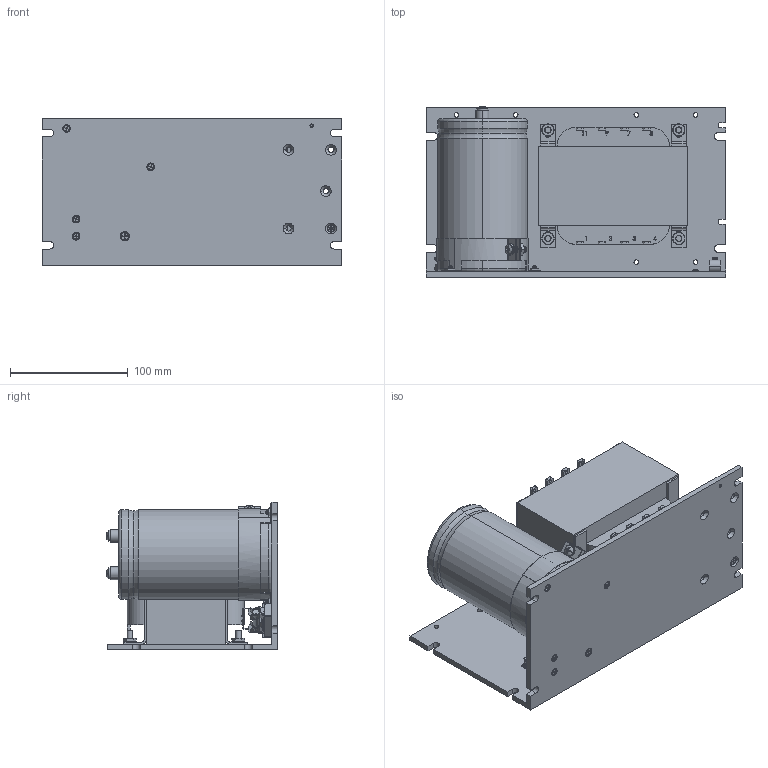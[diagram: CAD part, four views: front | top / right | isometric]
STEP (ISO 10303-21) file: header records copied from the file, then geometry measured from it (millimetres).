
FILE_DESCRIPTION((''),'2;1');
FILE_NAME('AMC_CAD_PS_PS16120-L_ASM','2019-06-03T',('SYSTEM'),(''),'PRO/ENGINEER BY PARAMETRIC TECHNOLOGY CORPORATION, 2016360','PRO/ENGINEER BY PARAMETRIC TECHNOLOGY CORPORATION, 2016360','');
FILE_SCHEMA(('AUTOMOTIVE_DESIGN { 1 0 10303 214 1 1 1 1 }'));
Length unit declared in the file: inch
Products named in the file (47): N2-3-SOLID1; S12-2-SOLID1; N9-4-SOLID1; S7-2-SOLID1; S14-3-SOLID1; N4-4-SOLID1; S13-2-SOLID1; S6-2-SOLID1; N10-4-SOLID1; FH-1-SOLID6; S10-5-SOLID1; N11-4-SOLID1; S12-2-SOLID2; BSPLT-2-SOLID1; S13-2-SOLID2; N7-2-SOLID1; N12-6-SOLID1; S15-2-SOLID1; S11-3-SOLID1; S4-7-SOLID1; S9-4-SOLID1; DB1-2-SOLID1; S3-4-SOLID1; N11-4-SOLID2; FH-1-SOLID7; FUSE-3-SOLID1; N6-4-SOLID1; FH-1-SOLID3; CLAMP-2-SOLID1; C1-2-SOLID1; N6-4-SOLID2; N3-4-SOLID1; N1-2-SOLID1; BRKT1-2-SOLID1; FH-1-SOLID1; FH-1-SOLID5; S2-3-SOLID1; R1-2-SOLID1; S1-6-SOLID1; FH-1-SOLID2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
Assembly tree (46 placements, depth 3):
  AMC_CAD_PS_PS16120-L_ASM
    ASM0001_ASM
      N2-3-SOLID1
      S12-2-SOLID1
      N9-4-SOLID1
      S7-2-SOLID1
      S14-3-SOLID1
      N4-4-SOLID1
      S13-2-SOLID1
      S6-2-SOLID1
      N10-4-SOLID1
      FH-1-SOLID6
      S10-5-SOLID1
      N11-4-SOLID1
      S12-2-SOLID2
      BSPLT-2-SOLID1
      S13-2-SOLID2
      N7-2-SOLID1
      N12-6-SOLID1
      S15-2-SOLID1
      S11-3-SOLID1
      S4-7-SOLID1
      S9-4-SOLID1
      DB1-2-SOLID1
      S3-4-SOLID1
      N11-4-SOLID2
      FH-1-SOLID7
      FUSE-3-SOLID1
      N6-4-SOLID1
      FH-1-SOLID3
      CLAMP-2-SOLID1
      C1-2-SOLID1
      N6-4-SOLID2
      N3-4-SOLID1
      N1-2-SOLID1
      BRKT1-2-SOLID1
      FH-1-SOLID1
      FH-1-SOLID5
      S2-3-SOLID1
      R1-2-SOLID1
      S1-6-SOLID1
      FH-1-SOLID2
      FH-1-SOLID4
      S14-3-SOLID2
      S8-3-SOLID1
      N8-3-SOLID1
      T1-2-SOLID1
Bounding box: 254 x 145.42 x 125.43 mm (x, y, z)
Volume: 2064657.7 mm3; surface area: 281669.7 mm2
Topology: 45 solids, 45 shells, 3028 faces, 8141 edges, 5256 vertices
Faces by surface type: plane 1165, cylinder 889, cone 778, extrusion 95, torus 63, sphere 20, bspline 18
Entity records: 152247 total; most frequent: CARTESIAN_POINT 31383, DIRECTION 16321, ORIENTED_EDGE 16258, PRESENTATION_STYLE_ASSIGNMENT 10478, STYLED_ITEM 8174, CURVE_STYLE 8129, EDGE_CURVE 8129, AXIS2_PLACEMENT_3D 5951
